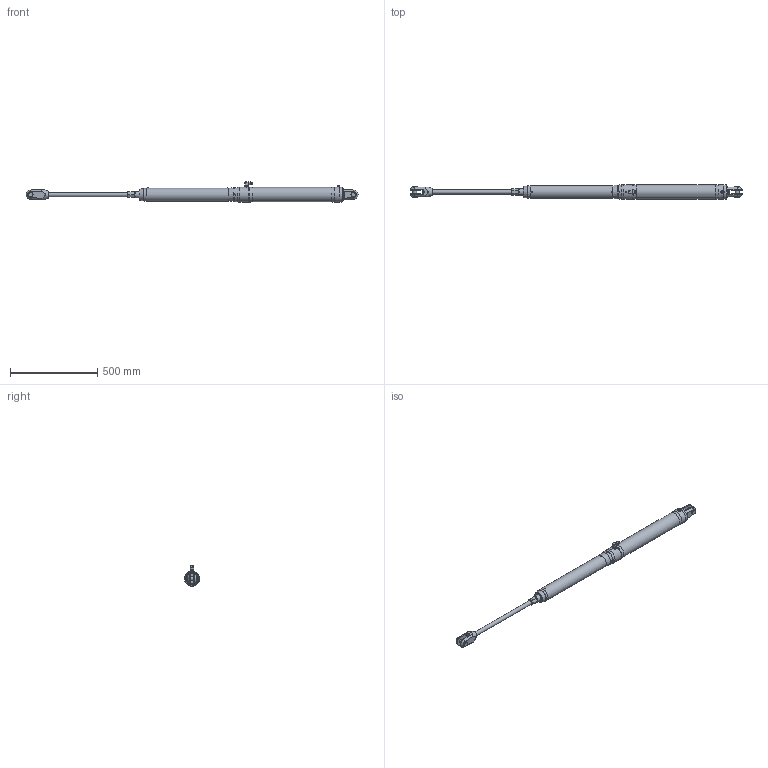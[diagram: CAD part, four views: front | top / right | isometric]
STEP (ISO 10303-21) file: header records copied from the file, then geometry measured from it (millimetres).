
FILE_DESCRIPTION(/* description */ (''),/* implementation_level */ '2;1');
FILE_NAME(/* name */ 'Q:\AA BRAND HYDRAULICS\HYDRAULICS FAMILY DIRECTORY\HYDRAULICS\CYLINDERS\MECHANICAL LOCK RAMS\ALUMINIUM - STAINLESS SINGLE ACTING (-0012 To -0150)\MSA-0030-S0450-NP-71\MSA-0030-S0450-NP-71 (Open).stp',/* time_stamp */ '2018-04-25T16:01:05+01:00',/* author */ ('Lorena'),/* organization */ (''),/* preprocessor_version */ 'ST-DEVELOPER v17',/* originating_system */ 'Autodesk Inventor 2018',/* authorisation */ '');
FILE_SCHEMA (('AUTOMOTIVE_DESIGN { 1 0 10303 214 3 1 1 }'));
Length unit declared in the file: millimetre
Products named in the file (1): MSA-0030-S0450-NP-71 (Open)
Bounding box: 1907.16 x 85.6 x 116.4 mm (x, y, z)
Volume: 6405313.2 mm3; surface area: 406015.9 mm2
Topology: 2 solids, 4 shells, 497 faces, 1299 edges, 845 vertices
Faces by surface type: plane 281, cone 125, cylinder 77, torus 6, sphere 4, bspline 4
Full cylindrical faces by diameter (mm): 4 x1, 4.134 x1, 4.2 x2, 4.4 x1, 5 x7, 5.1 x1, 7 x1, 9 x1, 10 x2, 11.11 x1, 11.157 x1, 11.5 x1, 11.8 x1, 12 x1, 12.157 x1, 13 x1, 13.157 x2, 14.5 x2, 16 x2, 18.3 x3, 22 x1, 22.23 x2, 23.5 x1, 27.788 x2, 36 x2, 37 x2, 40 x1, 74 x1, 82.6 x1, 85.6 x4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
Entity records: 16791 total; most frequent: CARTESIAN_POINT 4201, ORIENTED_EDGE 2578, DIRECTION 2514, EDGE_CURVE 1289, AXIS2_PLACEMENT_3D 968, VERTEX_POINT 845, LINE 578, VECTOR 578
